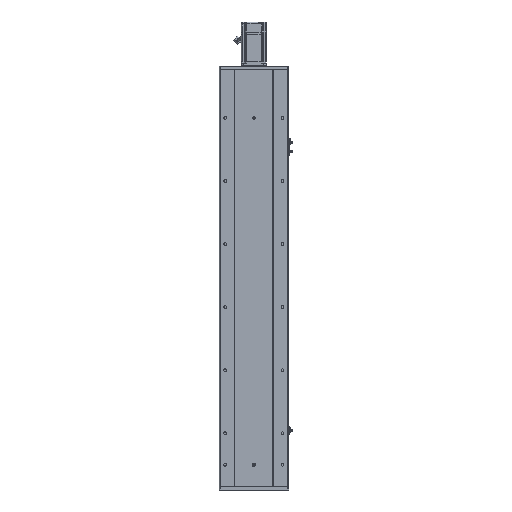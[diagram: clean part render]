
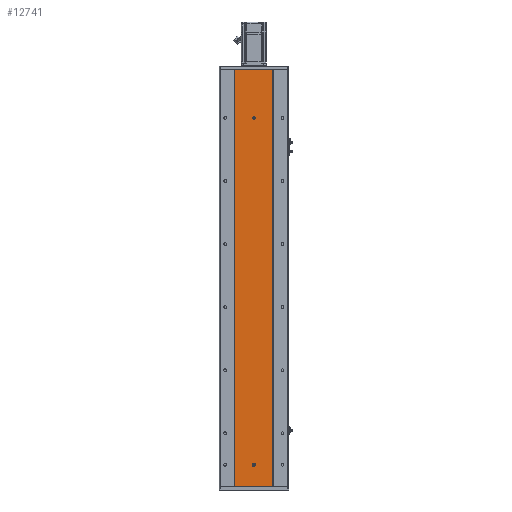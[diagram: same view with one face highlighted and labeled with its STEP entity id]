
A CAD part, front view. The second image highlights one B-rep face of the part: STEP entity #12741.
In plain terms, the highlighted planar face has unit normal (0, -1, 0).
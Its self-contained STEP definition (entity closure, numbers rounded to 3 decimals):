
#386 = EDGE_CURVE ( 'NONE', #18092, #68271, #29485, .T. ) ;
#1259 = LINE ( 'NONE', #41653, #68146 ) ;
#1500 = ORIENTED_EDGE ( 'NONE', *, *, #26338, .F. ) ;
#1506 = ORIENTED_EDGE ( 'NONE', *, *, #35175, .F. ) ;
#2463 = DIRECTION ( 'NONE',  ( 0., 1., 0. ) ) ;
#3771 = LINE ( 'NONE', #8844, #45815 ) ;
#3811 = DIRECTION ( 'NONE',  ( 0., 0., -1. ) ) ;
#4041 = CARTESIAN_POINT ( 'NONE',  ( -60., 0., 1324. ) ) ;
#4304 = VECTOR ( 'NONE', #54734, 1000. ) ;
#6192 = CARTESIAN_POINT ( 'NONE',  ( 60., 0., 0. ) ) ;
#6688 = AXIS2_PLACEMENT_3D ( 'NONE', #10384, #36353, #41870 ) ;
#8504 = DIRECTION ( 'NONE',  ( 0., 0., 1. ) ) ;
#8844 = CARTESIAN_POINT ( 'NONE',  ( -60., 0., 0. ) ) ;
#9133 = DIRECTION ( 'NONE',  ( 0., -1., 0. ) ) ;
#9648 = ORIENTED_EDGE ( 'NONE', *, *, #32654, .F. ) ;
#10218 = VECTOR ( 'NONE', #40985, 1000. ) ;
#10384 = CARTESIAN_POINT ( 'NONE',  ( 0., 0., 68.5 ) ) ;
#10455 = CARTESIAN_POINT ( 'NONE',  ( 0., 0., 1170. ) ) ;
#10537 = CARTESIAN_POINT ( 'NONE',  ( 4., 0., 71.5 ) ) ;
#10724 = EDGE_CURVE ( 'NONE', #26474, #52152, #18348, .T. ) ;
#10945 = AXIS2_PLACEMENT_3D ( 'NONE', #14446, #24144, #3811 ) ;
#11793 = DIRECTION ( 'NONE',  ( 0., 0., -1. ) ) ;
#12741 = ADVANCED_FACE ( 'NONE', ( #40302, #52750, #56071 ), #61270, .F. ) ;
#13451 = DIRECTION ( 'NONE',  ( 1., 0., 0. ) ) ;
#14446 = CARTESIAN_POINT ( 'NONE',  ( 0., 0., 68.5 ) ) ;
#14778 = CARTESIAN_POINT ( 'NONE',  ( -4., 0., 71.5 ) ) ;
#15007 = VERTEX_POINT ( 'NONE', #18022 ) ;
#15217 = DIRECTION ( 'NONE',  ( 0., 0., -1. ) ) ;
#15357 = VERTEX_POINT ( 'NONE', #6192 ) ;
#15359 = DIRECTION ( 'NONE',  ( 0., 0., -1. ) ) ;
#15580 = DIRECTION ( 'NONE',  ( 0., 0., 1. ) ) ;
#16322 = CARTESIAN_POINT ( 'NONE',  ( 0., 0., 1174. ) ) ;
#17002 = CIRCLE ( 'NONE', #10945, 4. ) ;
#17330 = EDGE_CURVE ( 'NONE', #15007, #19776, #24182, .T. ) ;
#18022 = CARTESIAN_POINT ( 'NONE',  ( -4., 0., 71.5 ) ) ;
#18092 = VERTEX_POINT ( 'NONE', #16322 ) ;
#18348 = LINE ( 'NONE', #4041, #34788 ) ;
#18420 = CARTESIAN_POINT ( 'NONE',  ( -60., 0., 1324. ) ) ;
#19776 = VERTEX_POINT ( 'NONE', #54383 ) ;
#21673 = VERTEX_POINT ( 'NONE', #27761 ) ;
#22840 = CIRCLE ( 'NONE', #56056, 4. ) ;
#23647 = VECTOR ( 'NONE', #15580, 1000. ) ;
#24144 = DIRECTION ( 'NONE',  ( 0., -1., 0. ) ) ;
#24182 = LINE ( 'NONE', #14778, #10218 ) ;
#26338 = EDGE_CURVE ( 'NONE', #19776, #49042, #17002, .T. ) ;
#26474 = VERTEX_POINT ( 'NONE', #51526 ) ;
#27761 = CARTESIAN_POINT ( 'NONE',  ( 60., 0., 1324. ) ) ;
#28272 = EDGE_CURVE ( 'NONE', #49604, #15007, #22840, .T. ) ;
#29305 = LINE ( 'NONE', #43868, #4304 ) ;
#29485 = CIRCLE ( 'NONE', #39675, 4. ) ;
#29859 = VERTEX_POINT ( 'NONE', #52646 ) ;
#31056 = CARTESIAN_POINT ( 'NONE',  ( 0., 0., 1166. ) ) ;
#32654 = EDGE_CURVE ( 'NONE', #21673, #15357, #1259, .T. ) ;
#34788 = VECTOR ( 'NONE', #15359, 1000. ) ;
#35175 = EDGE_CURVE ( 'NONE', #26474, #21673, #29305, .T. ) ;
#36353 = DIRECTION ( 'NONE',  ( 0., -1., 0. ) ) ;
#37298 = EDGE_LOOP ( 'NONE', ( #63008, #38142 ) ) ;
#37636 = EDGE_LOOP ( 'NONE', ( #53621, #53511, #45113, #56230, #1500 ) ) ;
#38142 = ORIENTED_EDGE ( 'NONE', *, *, #386, .F. ) ;
#38808 = AXIS2_PLACEMENT_3D ( 'NONE', #67006, #9133, #50831 ) ;
#39250 = CIRCLE ( 'NONE', #38808, 4. ) ;
#39675 = AXIS2_PLACEMENT_3D ( 'NONE', #10455, #53292, #11793 ) ;
#40302 = FACE_BOUND ( 'NONE', #37298, .T. ) ;
#40335 = EDGE_LOOP ( 'NONE', ( #65794, #9648, #1506, #44843 ) ) ;
#40985 = DIRECTION ( 'NONE',  ( 0., 0., -1. ) ) ;
#41653 = CARTESIAN_POINT ( 'NONE',  ( 60., 0., 1324. ) ) ;
#41709 = LINE ( 'NONE', #10537, #23647 ) ;
#41870 = DIRECTION ( 'NONE',  ( 0., 0., -1. ) ) ;
#43818 = EDGE_CURVE ( 'NONE', #68271, #18092, #39250, .T. ) ;
#43868 = CARTESIAN_POINT ( 'NONE',  ( -60., 0., 1324. ) ) ;
#43890 = EDGE_CURVE ( 'NONE', #29859, #49604, #41709, .T. ) ;
#44812 = CARTESIAN_POINT ( 'NONE',  ( 0., 0., 71.5 ) ) ;
#44843 = ORIENTED_EDGE ( 'NONE', *, *, #10724, .T. ) ;
#44874 = EDGE_CURVE ( 'NONE', #49042, #29859, #53319, .T. ) ;
#45113 = ORIENTED_EDGE ( 'NONE', *, *, #43890, .F. ) ;
#45265 = DIRECTION ( 'NONE',  ( 0., 0., -1. ) ) ;
#45815 = VECTOR ( 'NONE', #13451, 1000. ) ;
#47604 = EDGE_CURVE ( 'NONE', #52152, #15357, #3771, .T. ) ;
#49042 = VERTEX_POINT ( 'NONE', #54316 ) ;
#49604 = VERTEX_POINT ( 'NONE', #64623 ) ;
#50829 = DIRECTION ( 'NONE',  ( 0., -1., 0. ) ) ;
#50831 = DIRECTION ( 'NONE',  ( 0., 0., -1. ) ) ;
#51526 = CARTESIAN_POINT ( 'NONE',  ( -60., 0., 1324. ) ) ;
#52152 = VERTEX_POINT ( 'NONE', #58745 ) ;
#52646 = CARTESIAN_POINT ( 'NONE',  ( 4., 0., 68.5 ) ) ;
#52750 = FACE_BOUND ( 'NONE', #37636, .T. ) ;
#53292 = DIRECTION ( 'NONE',  ( 0., -1., 0. ) ) ;
#53319 = CIRCLE ( 'NONE', #6688, 4. ) ;
#53511 = ORIENTED_EDGE ( 'NONE', *, *, #28272, .F. ) ;
#53621 = ORIENTED_EDGE ( 'NONE', *, *, #17330, .F. ) ;
#54316 = CARTESIAN_POINT ( 'NONE',  ( 0., 0., 64.5 ) ) ;
#54383 = CARTESIAN_POINT ( 'NONE',  ( -4., 0., 68.5 ) ) ;
#54734 = DIRECTION ( 'NONE',  ( 1., 0., 0. ) ) ;
#56056 = AXIS2_PLACEMENT_3D ( 'NONE', #44812, #50829, #45265 ) ;
#56071 = FACE_OUTER_BOUND ( 'NONE', #40335, .T. ) ;
#56230 = ORIENTED_EDGE ( 'NONE', *, *, #44874, .F. ) ;
#57016 = AXIS2_PLACEMENT_3D ( 'NONE', #18420, #2463, #8504 ) ;
#58745 = CARTESIAN_POINT ( 'NONE',  ( -60., 0., 0. ) ) ;
#61270 = PLANE ( 'NONE',  #57016 ) ;
#63008 = ORIENTED_EDGE ( 'NONE', *, *, #43818, .F. ) ;
#64623 = CARTESIAN_POINT ( 'NONE',  ( 4., 0., 71.5 ) ) ;
#65794 = ORIENTED_EDGE ( 'NONE', *, *, #47604, .T. ) ;
#67006 = CARTESIAN_POINT ( 'NONE',  ( 0., 0., 1170. ) ) ;
#68146 = VECTOR ( 'NONE', #15217, 1000. ) ;
#68271 = VERTEX_POINT ( 'NONE', #31056 ) ;
